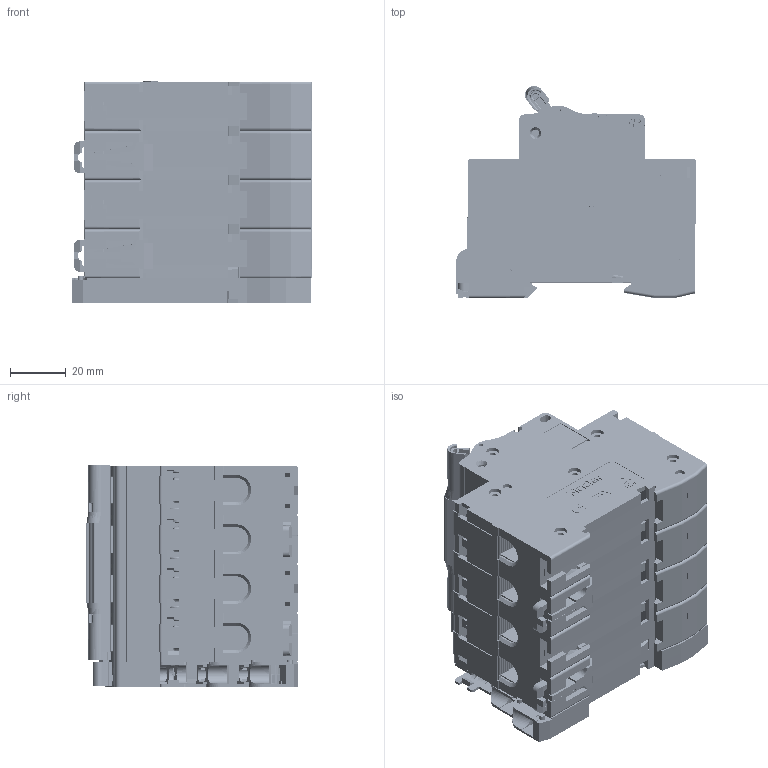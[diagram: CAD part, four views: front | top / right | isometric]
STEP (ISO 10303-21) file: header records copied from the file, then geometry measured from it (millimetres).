
FILE_DESCRIPTION (( 'STEP AP203' ), '1' );
FILE_NAME ('NDB2-63+OF2 4P.STEP', '2026-03-06T01:33:42', ( '' ), ( '' ), 'SwSTEP 2.0', 'SolidWorks 2018', '' );
FILE_SCHEMA (( 'CONFIG_CONTROL_DESIGN' ));
Products named in the file (3): 5LD.005.163; NDB2-63+OF2 4P; 4p
Assembly tree (2 placements, depth 2):
  NDB2-63+OF2 4P
    4p
    5LD.005.163
Bounding box: 85.85 x 75.91 x 79.03 mm (x, y, z)
Volume: 309768.7 mm3; surface area: 215745.9 mm2
Topology: 57 solids, 116 shells, 14145 faces, 40662 edges, 26969 vertices
Faces by surface type: plane 8278, cylinder 4185, cone 952, bspline 622, torus 76, sphere 32
Entity records: 530358 total; most frequent: CARTESIAN_POINT 168540, ORIENTED_EDGE 80029, DIRECTION 68397, EDGE_CURVE 40646, VERTEX_POINT 26969, VECTOR 26559, LINE 26559, AXIS2_PLACEMENT_3D 20919
